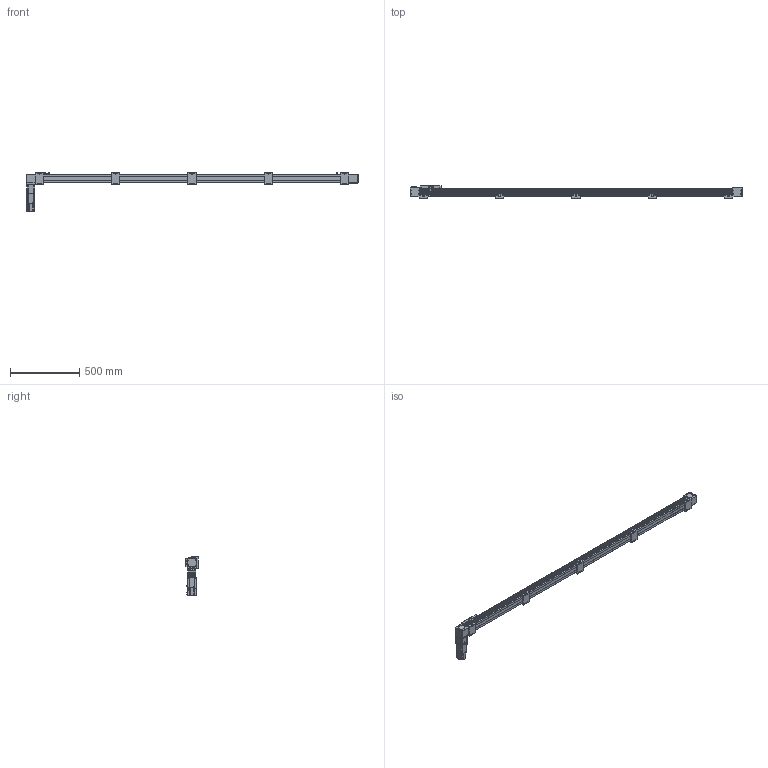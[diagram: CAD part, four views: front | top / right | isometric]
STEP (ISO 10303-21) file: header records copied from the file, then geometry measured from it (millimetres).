
FILE_DESCRIPTION(/* description */ ('STEP AP203'),/* implementation_level */ '2;1');
FILE_NAME(/* name */ 'SK60-P13-S2100-BR-T40-C1-N(0)',/* time_stamp */ '2023-04-06T04:00:42+02:00',/* author */ ('License CC BY-ND 4.0'),/* organization */ ('CADENAS'),/* preprocessor_version */ 'ST-DEVELOPER v19.3',/* originating_system */ 'PARTsolutions',/* authorisation */ ' ');
FILE_SCHEMA (('CONFIG_CONTROL_DESIGN'));
Length unit declared in the file: millimetre
Products named in the file (11): SK60-P13-S2100-BR-T40-C1-N(0); PSC140-sensor; SK60-S450_seat; SK60-S450-BL-C1_slider; SK60_body3; SK60_body6; SK60-BL_body2; T40-p1; SK60_body5; SK60_body4; SK60-S2100-BR-C1_body
Assembly tree (20 placements, depth 2):
  SK60-P13-S2100-BR-T40-C1-N(0)
    PSC140-sensor  x3
    SK60-S450_seat  x5
    SK60-S450-BL-C1_slider
    SK60_body3  x3
    SK60_body6  x2
    SK60-BL_body2  x2
    T40-p1
    SK60_body5
    SK60_body4
    SK60-S2100-BR-C1_body
Bounding box: 2400 x 90 x 279.1 mm (x, y, z)
Volume: 8782914.3 mm3; surface area: 1094750.6 mm2
Topology: 20 solids, 24 shells, 966 faces, 2403 edges, 1586 vertices
Faces by surface type: plane 616, cylinder 314, cone 34, torus 2
Full cylindrical faces by diameter (mm): 2.8 x3, 3.3 x4, 4.2 x8, 4.5 x26, 4.6 x3, 4.917 x28, 5 x2, 5.478 x4, 5.5 x31, 6.5 x10, 8 x4, 8.5 x4, 9.988 x4, 10 x20, 13.556 x1, 14 x1, 14.586 x1, 19.692 x1, 38.432 x2, 43 x1, 44 x3, 47 x2, 50 x2
Entity records: 19395 total; most frequent: DIRECTION 3298, CARTESIAN_POINT 3292, ORIENTED_EDGE 3050, EDGE_CURVE 1525, AXIS2_PLACEMENT_3D 1103, LINE 1092, VECTOR 1092, VERTEX_POINT 1077
